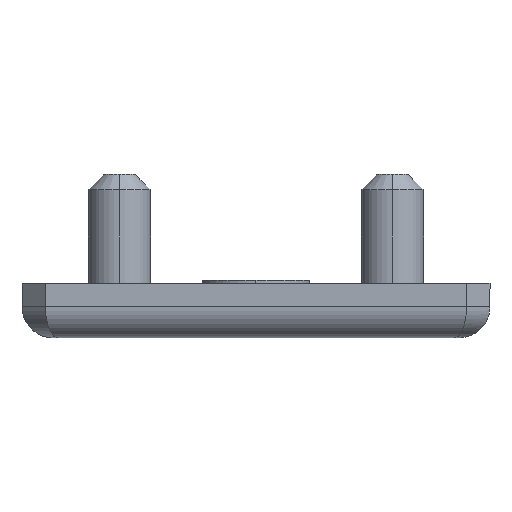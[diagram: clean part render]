
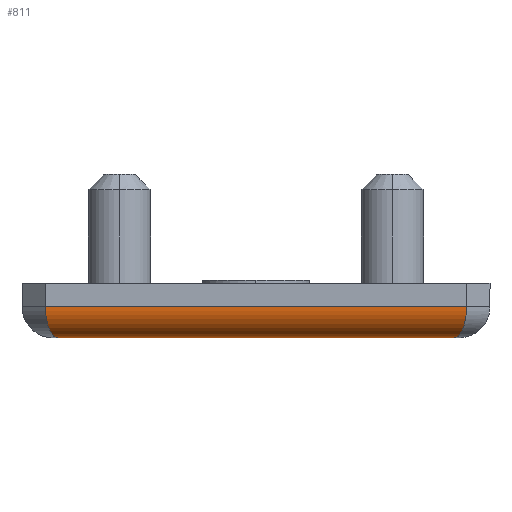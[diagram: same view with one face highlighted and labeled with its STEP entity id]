
A CAD part, left-side view. The second image highlights one B-rep face of the part: STEP entity #811.
In plain terms, the highlighted cylindrical face has radius 2 mm (diameter 4 mm), a partial arc.
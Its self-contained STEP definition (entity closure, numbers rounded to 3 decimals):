
#10 = VERTEX_POINT ( 'NONE', #941 ) ;
#48 = CYLINDRICAL_SURFACE ( 'NONE', #498, 2. ) ;
#145 = VECTOR ( 'NONE', #1863, 1000. ) ;
#183 = CARTESIAN_POINT ( 'NONE',  ( -23., -15., 2. ) ) ;
#223 = VERTEX_POINT ( 'NONE', #726 ) ;
#261 = ORIENTED_EDGE ( 'NONE', *, *, #2275, .F. ) ;
#477 = LINE ( 'NONE', #643, #1323 ) ;
#498 = AXIS2_PLACEMENT_3D ( 'NONE', #183, #1453, #580 ) ;
#543 = FACE_OUTER_BOUND ( 'NONE', #2069, .T. ) ;
#580 = DIRECTION ( 'NONE',  ( 0., 0., -1. ) ) ;
#624 = LINE ( 'NONE', #1350, #145 ) ;
#632 = CARTESIAN_POINT ( 'NONE',  ( -24.172, 13.157, 0. ) ) ;
#643 = CARTESIAN_POINT ( 'NONE',  ( -25., -15., 2. ) ) ;
#726 = CARTESIAN_POINT ( 'NONE',  ( -23., 12.672, 0. ) ) ;
#811 = ADVANCED_FACE ( 'NONE', ( #543 ), #48, .T. ) ;
#902 = CARTESIAN_POINT ( 'NONE',  ( -23., -12.672, 0. ) ) ;
#941 = CARTESIAN_POINT ( 'NONE',  ( -25., 13.5, 2. ) ) ;
#986 = CARTESIAN_POINT ( 'NONE',  ( -23., 12.672, 0. ) ) ;
#1122 = ORIENTED_EDGE ( 'NONE', *, *, #1759, .F. ) ;
#1166 = ORIENTED_EDGE ( 'NONE', *, *, #2184, .F. ) ;
#1249 = VERTEX_POINT ( 'NONE', #1963 ) ;
#1252 = ORIENTED_EDGE ( 'NONE', *, *, #1296, .T. ) ;
#1265 = CARTESIAN_POINT ( 'NONE',  ( -24.172, -13.157, 0. ) ) ;
#1296 = EDGE_CURVE ( 'NONE', #1249, #1945, #2334, .T. ) ;
#1323 = VECTOR ( 'NONE', #2265, 1000. ) ;
#1350 = CARTESIAN_POINT ( 'NONE',  ( -23., 0., 0. ) ) ;
#1453 = DIRECTION ( 'NONE',  ( 0., -1., 0. ) ) ;
#1622 = CARTESIAN_POINT ( 'NONE',  ( -25., -13.5, 0.828 ) ) ;
#1759 = EDGE_CURVE ( 'NONE', #10, #1945, #477, .T. ) ;
#1816 = CARTESIAN_POINT ( 'NONE',  ( -25., -13.5, 2. ) ) ;
#1863 = DIRECTION ( 'NONE',  ( 0., 1., 0. ) ) ;
#1945 = VERTEX_POINT ( 'NONE', #1816 ) ;
#1963 = CARTESIAN_POINT ( 'NONE',  ( -23., -12.672, 0. ) ) ;
#2069 = EDGE_LOOP ( 'NONE', ( #1252, #1122, #1166, #261 ) ) ;
#2083 =( BOUNDED_CURVE ( )  B_SPLINE_CURVE ( 3, ( #986, #632, #2259, #2246 ),
 .UNSPECIFIED., .F., .F. ) 
 B_SPLINE_CURVE_WITH_KNOTS ( ( 4, 4 ),
 ( 1.571, 3.142 ),
 .UNSPECIFIED. ) 
 CURVE ( )  GEOMETRIC_REPRESENTATION_ITEM ( )  RATIONAL_B_SPLINE_CURVE ( ( 1., 0.805, 0.805, 1. ) ) 
 REPRESENTATION_ITEM ( '' )  );
#2161 = CARTESIAN_POINT ( 'NONE',  ( -25., -13.5, 2. ) ) ;
#2184 = EDGE_CURVE ( 'NONE', #223, #10, #2083, .T. ) ;
#2246 = CARTESIAN_POINT ( 'NONE',  ( -25., 13.5, 2. ) ) ;
#2259 = CARTESIAN_POINT ( 'NONE',  ( -25., 13.5, 0.828 ) ) ;
#2265 = DIRECTION ( 'NONE',  ( 0., -1., 0. ) ) ;
#2275 = EDGE_CURVE ( 'NONE', #1249, #223, #624, .T. ) ;
#2334 =( BOUNDED_CURVE ( )  B_SPLINE_CURVE ( 3, ( #902, #1265, #1622, #2161 ),
 .UNSPECIFIED., .F., .T. ) 
 B_SPLINE_CURVE_WITH_KNOTS ( ( 4, 4 ),
 ( 4.712, 6.283 ),
 .UNSPECIFIED. ) 
 CURVE ( )  GEOMETRIC_REPRESENTATION_ITEM ( )  RATIONAL_B_SPLINE_CURVE ( ( 1., 0.805, 0.805, 1. ) ) 
 REPRESENTATION_ITEM ( '' )  );
